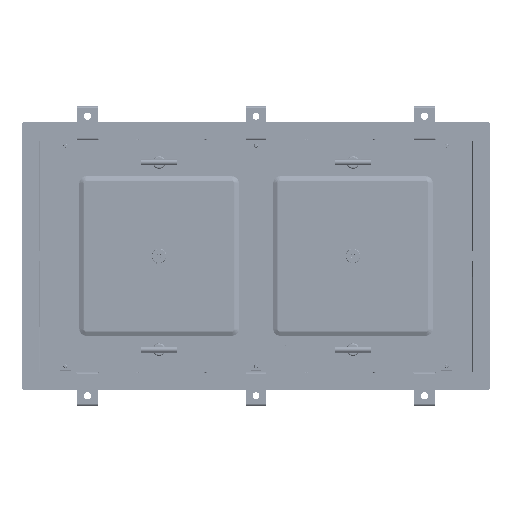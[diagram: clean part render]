
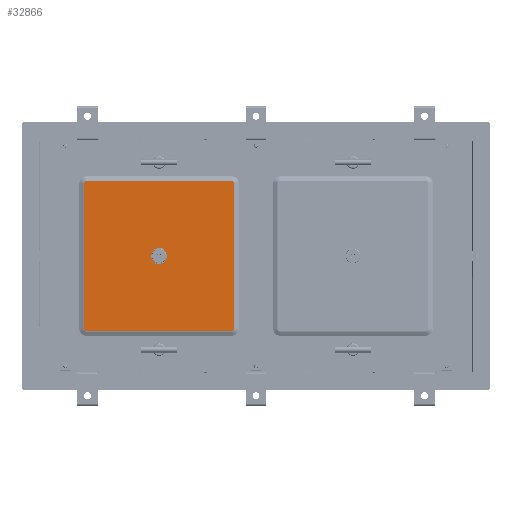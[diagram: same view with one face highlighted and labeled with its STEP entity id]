
A CAD part, top view. The second image highlights one B-rep face of the part: STEP entity #32866.
In plain terms, the highlighted planar face has unit normal (0, 0, 1).
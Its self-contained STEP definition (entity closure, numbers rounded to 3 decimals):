
#381 = VECTOR ( 'NONE', #34896, 1000. ) ;
#452 = VERTEX_POINT ( 'NONE', #27444 ) ;
#469 =( BOUNDED_CURVE ( )  B_SPLINE_CURVE ( 3, ( #47133, #4489, #42385, #954 ),
 .UNSPECIFIED., .F., .F. ) 
 B_SPLINE_CURVE_WITH_KNOTS ( ( 4, 4 ),
 ( 0., 1. ),
 .UNSPECIFIED. ) 
 CURVE ( )  GEOMETRIC_REPRESENTATION_ITEM ( )  RATIONAL_B_SPLINE_CURVE ( ( 1., 0.805, 0.805, 1. ) ) 
 REPRESENTATION_ITEM ( '' )  );
#736 = FACE_OUTER_BOUND ( 'NONE', #6820, .T. ) ;
#752 = EDGE_CURVE ( 'NONE', #16255, #21547, #34160, .T. ) ;
#954 = CARTESIAN_POINT ( 'NONE',  ( -109., 112.345, 5. ) ) ;
#1228 = LINE ( 'NONE', #24370, #45242 ) ;
#2627 = ORIENTED_EDGE ( 'NONE', *, *, #41280, .F. ) ;
#3254 = CARTESIAN_POINT ( 'NONE',  ( -112.345, 109., 5. ) ) ;
#3553 = VERTEX_POINT ( 'NONE', #11524 ) ;
#3699 = VERTEX_POINT ( 'NONE', #16749 ) ;
#4231 = ORIENTED_EDGE ( 'NONE', *, *, #24282, .F. ) ;
#4489 = CARTESIAN_POINT ( 'NONE',  ( -112.345, 110.959, 5. ) ) ;
#4820 = EDGE_CURVE ( 'NONE', #34641, #38239, #15780, .T. ) ;
#5189 = CARTESIAN_POINT ( 'NONE',  ( -110.959, -112.345, 5. ) ) ;
#5693 = DIRECTION ( 'NONE',  ( -1., 0., 0. ) ) ;
#6116 = CARTESIAN_POINT ( 'NONE',  ( 0., 0., 5. ) ) ;
#6684 = CARTESIAN_POINT ( 'NONE',  ( 109., -112.345, 5. ) ) ;
#6820 = EDGE_LOOP ( 'NONE', ( #20433, #2627, #25891, #16240, #32940, #12246, #4231, #48689 ) ) ;
#6887 = CARTESIAN_POINT ( 'NONE',  ( -112.345, -109., 5. ) ) ;
#7073 = AXIS2_PLACEMENT_3D ( 'NONE', #47389, #40089, #44365 ) ;
#7560 = VERTEX_POINT ( 'NONE', #48279 ) ;
#8050 = DIRECTION ( 'NONE',  ( -1., 0., 0. ) ) ;
#8377 = EDGE_CURVE ( 'NONE', #9902, #16255, #24269, .T. ) ;
#8528 = DIRECTION ( 'NONE',  ( 0., 0., -1. ) ) ;
#8537 =( BOUNDED_CURVE ( )  B_SPLINE_CURVE ( 3, ( #37055, #9944, #44062, #24781 ),
 .UNSPECIFIED., .F., .T. ) 
 B_SPLINE_CURVE_WITH_KNOTS ( ( 4, 4 ),
 ( 0., 1. ),
 .UNSPECIFIED. ) 
 CURVE ( )  GEOMETRIC_REPRESENTATION_ITEM ( )  RATIONAL_B_SPLINE_CURVE ( ( 1., 0.805, 0.805, 1. ) ) 
 REPRESENTATION_ITEM ( '' )  );
#8975 = CARTESIAN_POINT ( 'NONE',  ( 112.345, 109., 5. ) ) ;
#9029 = PLANE ( 'NONE',  #13729 ) ;
#9881 = DIRECTION ( 'NONE',  ( 1., 0., 0. ) ) ;
#9902 = VERTEX_POINT ( 'NONE', #14756 ) ;
#9944 = CARTESIAN_POINT ( 'NONE',  ( 110.959, 112.345, 5. ) ) ;
#10358 = DIRECTION ( 'NONE',  ( 0., 0., -1. ) ) ;
#10775 = CARTESIAN_POINT ( 'NONE',  ( 110.959, -112.345, 5. ) ) ;
#10992 = EDGE_CURVE ( 'NONE', #23976, #452, #45559, .T. ) ;
#11524 = CARTESIAN_POINT ( 'NONE',  ( 109., 112.345, 5. ) ) ;
#12246 = ORIENTED_EDGE ( 'NONE', *, *, #37284, .F. ) ;
#13729 = AXIS2_PLACEMENT_3D ( 'NONE', #42921, #8528, #8050 ) ;
#14756 = CARTESIAN_POINT ( 'NONE',  ( -109., -112.345, 5. ) ) ;
#14828 = CARTESIAN_POINT ( 'NONE',  ( 112.345, -109., 5. ) ) ;
#15533 = EDGE_CURVE ( 'NONE', #21547, #3699, #469, .T. ) ;
#15780 = LINE ( 'NONE', #19558, #381 ) ;
#16240 = ORIENTED_EDGE ( 'NONE', *, *, #752, .F. ) ;
#16255 = VERTEX_POINT ( 'NONE', #6887 ) ;
#16749 = CARTESIAN_POINT ( 'NONE',  ( -109., 112.345, 5. ) ) ;
#18285 = CIRCLE ( 'NONE', #23945, 11.55 ) ;
#19558 = CARTESIAN_POINT ( 'NONE',  ( 112.345, 109., 5. ) ) ;
#20433 = ORIENTED_EDGE ( 'NONE', *, *, #34856, .F. ) ;
#21547 = VERTEX_POINT ( 'NONE', #23092 ) ;
#23092 = CARTESIAN_POINT ( 'NONE',  ( -112.345, 109., 5. ) ) ;
#23945 = AXIS2_PLACEMENT_3D ( 'NONE', #6116, #10358, #9881 ) ;
#23976 = VERTEX_POINT ( 'NONE', #30449 ) ;
#24269 =( BOUNDED_CURVE ( )  B_SPLINE_CURVE ( 3, ( #35102, #5189, #47348, #43573 ),
 .UNSPECIFIED., .F., .F. ) 
 B_SPLINE_CURVE_WITH_KNOTS ( ( 4, 4 ),
 ( 0., 1. ),
 .UNSPECIFIED. ) 
 CURVE ( )  GEOMETRIC_REPRESENTATION_ITEM ( )  RATIONAL_B_SPLINE_CURVE ( ( 1., 0.805, 0.805, 1. ) ) 
 REPRESENTATION_ITEM ( '' )  );
#24282 = EDGE_CURVE ( 'NONE', #38239, #7560, #33945, .T. ) ;
#24370 = CARTESIAN_POINT ( 'NONE',  ( 109., 112.345, 5. ) ) ;
#24781 = CARTESIAN_POINT ( 'NONE',  ( 112.345, 109., 5. ) ) ;
#25891 = ORIENTED_EDGE ( 'NONE', *, *, #15533, .F. ) ;
#26822 = EDGE_LOOP ( 'NONE', ( #45667, #28214 ) ) ;
#27444 = CARTESIAN_POINT ( 'NONE',  ( -11.55, 0., 5. ) ) ;
#27885 = FACE_BOUND ( 'NONE', #26822, .T. ) ;
#28214 = ORIENTED_EDGE ( 'NONE', *, *, #45994, .T. ) ;
#29893 = CARTESIAN_POINT ( 'NONE',  ( 112.345, -110.959, 5. ) ) ;
#30449 = CARTESIAN_POINT ( 'NONE',  ( 11.55, 0., 5. ) ) ;
#32866 = ADVANCED_FACE ( 'NONE', ( #736, #27885 ), #9029, .F. ) ;
#32940 = ORIENTED_EDGE ( 'NONE', *, *, #8377, .F. ) ;
#33945 =( BOUNDED_CURVE ( )  B_SPLINE_CURVE ( 3, ( #48202, #29893, #10775, #37646 ),
 .UNSPECIFIED., .F., .T. ) 
 B_SPLINE_CURVE_WITH_KNOTS ( ( 4, 4 ),
 ( 0., 1. ),
 .UNSPECIFIED. ) 
 CURVE ( )  GEOMETRIC_REPRESENTATION_ITEM ( )  RATIONAL_B_SPLINE_CURVE ( ( 1., 0.805, 0.805, 1. ) ) 
 REPRESENTATION_ITEM ( '' )  );
#34160 = LINE ( 'NONE', #3254, #42612 ) ;
#34641 = VERTEX_POINT ( 'NONE', #8975 ) ;
#34856 = EDGE_CURVE ( 'NONE', #3553, #34641, #8537, .T. ) ;
#34896 = DIRECTION ( 'NONE',  ( 0., -1., 0. ) ) ;
#35102 = CARTESIAN_POINT ( 'NONE',  ( -109., -112.345, 5. ) ) ;
#37055 = CARTESIAN_POINT ( 'NONE',  ( 109., 112.345, 5. ) ) ;
#37284 = EDGE_CURVE ( 'NONE', #7560, #9902, #44578, .T. ) ;
#37646 = CARTESIAN_POINT ( 'NONE',  ( 109., -112.345, 5. ) ) ;
#38239 = VERTEX_POINT ( 'NONE', #14828 ) ;
#40089 = DIRECTION ( 'NONE',  ( 0., 0., -1. ) ) ;
#41153 = DIRECTION ( 'NONE',  ( 0., 1., 0. ) ) ;
#41280 = EDGE_CURVE ( 'NONE', #3699, #3553, #1228, .T. ) ;
#42385 = CARTESIAN_POINT ( 'NONE',  ( -110.959, 112.345, 5. ) ) ;
#42612 = VECTOR ( 'NONE', #41153, 1000. ) ;
#42921 = CARTESIAN_POINT ( 'NONE',  ( 109., 109., 5. ) ) ;
#43151 = DIRECTION ( 'NONE',  ( 1., 0., 0. ) ) ;
#43573 = CARTESIAN_POINT ( 'NONE',  ( -112.345, -109., 5. ) ) ;
#44062 = CARTESIAN_POINT ( 'NONE',  ( 112.345, 110.959, 5. ) ) ;
#44365 = DIRECTION ( 'NONE',  ( 1., 0., 0. ) ) ;
#44578 = LINE ( 'NONE', #6684, #48436 ) ;
#45242 = VECTOR ( 'NONE', #43151, 1000. ) ;
#45559 = CIRCLE ( 'NONE', #7073, 11.55 ) ;
#45667 = ORIENTED_EDGE ( 'NONE', *, *, #10992, .T. ) ;
#45994 = EDGE_CURVE ( 'NONE', #452, #23976, #18285, .T. ) ;
#47133 = CARTESIAN_POINT ( 'NONE',  ( -112.345, 109., 5. ) ) ;
#47348 = CARTESIAN_POINT ( 'NONE',  ( -112.345, -110.959, 5. ) ) ;
#47389 = CARTESIAN_POINT ( 'NONE',  ( 0., 0., 5. ) ) ;
#48202 = CARTESIAN_POINT ( 'NONE',  ( 112.345, -109., 5. ) ) ;
#48279 = CARTESIAN_POINT ( 'NONE',  ( 109., -112.345, 5. ) ) ;
#48436 = VECTOR ( 'NONE', #5693, 1000. ) ;
#48689 = ORIENTED_EDGE ( 'NONE', *, *, #4820, .F. ) ;
